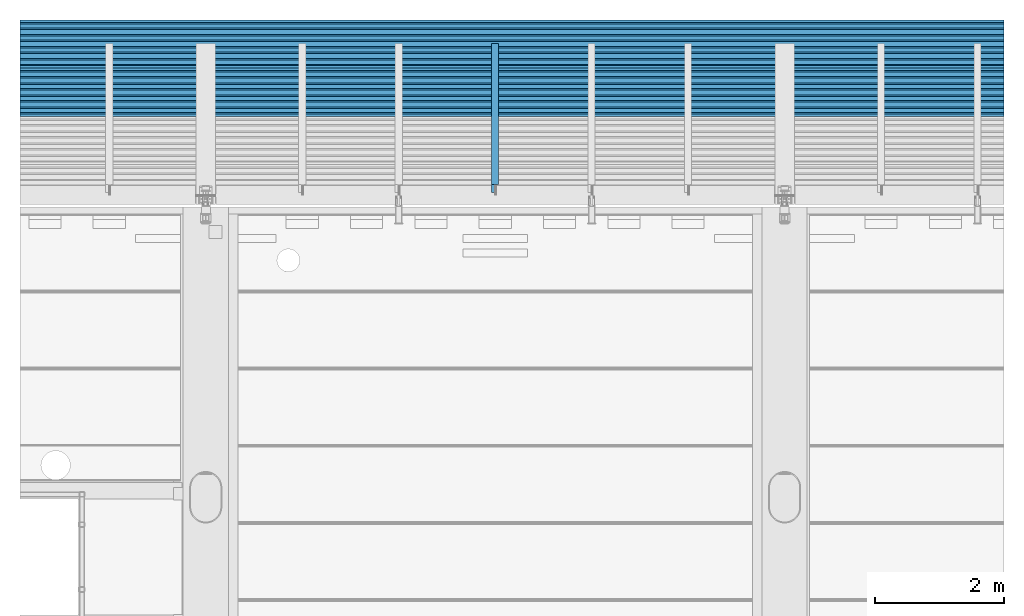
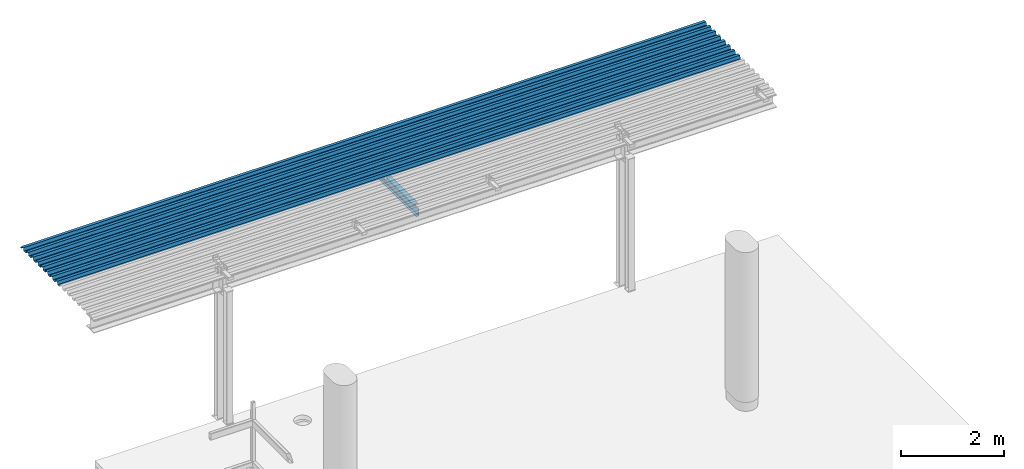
# One storey, part 26 of 34: 3 beams.
"""IFC2X3 building model written with IfcOpenShell, lengths in millimetres."""

import ifcopenshell
import ifcopenshell.guid

model = None  # the IFC model being written
_history = None  # IfcOwnerHistory: only IFC2X3 demands one
_inside = {}  # id of a spatial element -> (the spatial element, [elements in it])
_under = {}  # id of a project, library or spatial element -> (it, [spatial elements below it])
_declared = {}  # id of a project -> (the project, [libraries it declares])
_typed = {}  # id of a type object -> (the type object, [elements of that type])
_made_of = {}  # id of a material, layer set ... -> (it, [elements and type objects made of it])


def new_model(schema):
    """Start an empty IFC model of exactly this schema.

    Asked for "IFC4X3", IfcOpenShell would pick the latest addendum, in which some entities
    have other attributes; the version numbers below select the first issue.
    IFC2X3 requires an IfcOwnerHistory on every rooted entity: one is made here for all.
    """
    global model, _history
    if schema == "IFC4X3":
        model = ifcopenshell.file(schema_version=(4, 3, 0, 0))
    else:
        model = ifcopenshell.file(schema=schema)
    _inside.clear()
    _under.clear()
    _declared.clear()
    _typed.clear()
    _made_of.clear()
    _history = None
    if model.schema == "IFC2X3":
        org = make("IfcOrganization", Name="unknown")
        user = make(
            "IfcPersonAndOrganization",
            ThePerson=make("IfcPerson", FamilyName="unknown"),
            TheOrganization=org,
        )
        app = make(
            "IfcApplication",
            ApplicationDeveloper=org,
            Version="unknown",
            ApplicationFullName="unknown",
            ApplicationIdentifier="unknown",
        )
        _history = make(
            "IfcOwnerHistory",
            OwningUser=user,
            OwningApplication=app,
            ChangeAction="ADDED",
            CreationDate=0,
        )
    return model


def make(cls, **values):
    """One entity of the class cls with the attributes given. An attribute that is None is left unset."""
    return model.create_entity(
        cls, **{name: value for name, value in values.items() if value is not None}
    )


def entity(cls, *values):
    """Any entity or typed value of the class cls, its attributes in the order of the schema. None: left unset."""
    e = model.create_entity(cls)
    for i, value in enumerate(values):
        if value is not None:
            e[i] = value
    return e


def rooted(cls, **values):
    """An entity with a GlobalId (a new one), such as an element, a storey or a relation."""
    return make(cls, GlobalId=ifcopenshell.guid.new(), OwnerHistory=_history, **values)


def si_unit(unit_type, name, prefix=None):
    """IfcSIUnit, for example si_unit("LENGTHUNIT", "METRE", prefix="MILLI")."""
    return make("IfcSIUnit", UnitType=unit_type, Prefix=prefix, Name=name)


def converted_unit(unit_type, name, factor, base, dimensions=None, offset=None):
    """IfcConversionBasedUnit, such as the inch: factor (a typed value) times the base unit."""
    return make(
        "IfcConversionBasedUnit"
        if offset is None
        else "IfcConversionBasedUnitWithOffset",
        ConversionOffset=offset,
        Dimensions=None
        if dimensions is None
        else entity("IfcDimensionalExponents", *dimensions),
        UnitType=unit_type,
        Name=name,
        ConversionFactor=make(
            "IfcMeasureWithUnit", ValueComponent=factor, UnitComponent=base
        ),
    )


def derived_unit(unit_type, elements):
    """IfcDerivedUnit: a product of units, each with its exponent."""
    return make(
        "IfcDerivedUnit",
        Elements=[
            make("IfcDerivedUnitElement", Unit=unit, Exponent=power)
            for unit, power in elements
        ],
        UnitType=unit_type,
    )


def assignment(units):
    """IfcUnitAssignment: the units of a project."""
    return None if units is None else make("IfcUnitAssignment", Units=units)


def point(xyz):
    """IfcCartesianPoint."""
    return None if xyz is None else make("IfcCartesianPoint", Coordinates=xyz)


def direction(xyz):
    """IfcDirection."""
    return None if xyz is None else make("IfcDirection", DirectionRatios=xyz)


def frame(location, z_axis=None, x_axis=None):
    """IfcAxis2Placement3D, a coordinate frame: its origin and axes. An axis left out is left unset."""
    return make(
        "IfcAxis2Placement3D",
        Location=point(location),
        Axis=direction(z_axis),
        RefDirection=direction(x_axis),
    )


def origin_with_axes():
    """The frame at (0, 0, 0) with the z axis (0, 0, 1) and the x axis (1, 0, 0) written out."""
    return frame((0.0, 0.0, 0.0), z_axis=(0.0, 0.0, 1.0), x_axis=(1.0, 0.0, 0.0))


def place(relative_to, where):
    """IfcLocalPlacement: puts the frame where relative to a parent placement (None: the world)."""
    return make(
        "IfcLocalPlacement", PlacementRelTo=relative_to, RelativePlacement=where
    )


def context(
    kind, dimensions, precision=None, world=None, true_north=None, identifier=None
):
    """IfcGeometricRepresentationContext, for example the 3D "Model" context."""
    return make(
        "IfcGeometricRepresentationContext",
        ContextIdentifier=identifier,
        ContextType=kind,
        CoordinateSpaceDimension=dimensions,
        Precision=precision,
        WorldCoordinateSystem=world,
        TrueNorth=true_north,
    )


def subcontext(parent, identifier, kind, view, scale=None):
    """IfcGeometricRepresentationSubContext, for example "Body" below "Model"."""
    return make(
        "IfcGeometricRepresentationSubContext",
        ContextIdentifier=identifier,
        ContextType=kind,
        ParentContext=parent,
        TargetScale=scale,
        TargetView=view,
    )


def project(units=None, contexts=None):
    """IfcProject with its units and contexts."""
    return rooted(
        "IfcProject",
        Name="project",
        RepresentationContexts=contexts,
        UnitsInContext=assignment(units),
    )


def spatial(cls, under=None, at=None, **own):
    """A site, building, storey or space (cls), placed at a placement, below another one or the project."""
    s = rooted(cls, ObjectPlacement=at, **own)
    if under is not None:
        _under.setdefault(under.id(), (under, []))[1].append(s)
    return s


def faces_of(points, faces, orient=None, outer=None):
    """IfcFace entities. A face is a list of loops; a loop is a list of indices into points, from 0.

    orient and outer hold one flag for each loop. By default every Orientation is true, the
    first loop of a face is its IfcFaceOuterBound and the others are IfcFaceBound.
    """
    made = []
    for i, loops in enumerate(faces):
        bounds = []
        for j, loop in enumerate(loops):
            is_outer = j == 0 if outer is None else outer[i][j]
            bounds.append(
                make(
                    "IfcFaceOuterBound" if is_outer else "IfcFaceBound",
                    Bound=make("IfcPolyLoop", Polygon=[points[k] for k in loop]),
                    Orientation=True if orient is None else orient[i][j],
                )
            )
        made.append(make("IfcFace", Bounds=bounds))
    return made


def faceted_brep(points, faces, orient=None, outer=None, voids=None):
    """IfcFacetedBrep: a solid bounded by flat faces; with voids (closed shells), ...WithVoids."""
    shared = [point(p) for p in points]
    hull = make("IfcClosedShell", CfsFaces=faces_of(shared, faces, orient, outer))
    if voids is None:
        return make("IfcFacetedBrep", Outer=hull)
    return make(
        "IfcFacetedBrepWithVoids",
        Outer=hull,
        Voids=[
            make(cls, CfsFaces=faces_of(shared, fs, o, b)) for cls, fs, o, b in voids
        ],
    )


def shape(context_of_items, identifier, shape_type, items):
    """IfcShapeRepresentation: the items that make up one representation, for example the "Body"."""
    return make(
        "IfcShapeRepresentation",
        ContextOfItems=context_of_items,
        RepresentationIdentifier=identifier,
        RepresentationType=shape_type,
        Items=items,
    )


def made_of(thing, what):
    """Note that an element or type object is made of a material, layer set ...; save() writes the relation."""
    if what is not None:
        _made_of.setdefault(what.id(), (what, []))[1].append(thing)
    return thing


def type_object(cls, material=None, **own):
    """A type object (cls), such as IfcWallType, which elements share."""
    return made_of(rooted(cls, **own), material)


def element(
    cls,
    number,
    at=None,
    inside=None,
    cuts=None,
    type_object=None,
    material=None,
    context=None,
    identifier="Body",
    shape_type=None,
    held_by="IfcProductDefinitionShape",
    body=None,
    shapes=None,
    **own,
):
    """One element of the class cls, such as IfcWall. Its Tag is "e" and its number.

    at: its placement. inside: the storey or other place that contains it. cuts: it is an
    opening in that element (IfcRelVoidsElement). A single representation is given by context,
    identifier, shape_type and body (its items); several are given by shapes. held_by: the class
    of the entity that holds the representations. save() writes the other relations.
    """
    e = rooted(cls, Tag="e%d" % number, ObjectPlacement=at, **own)
    if body is not None:
        shapes = [shape(context, identifier, shape_type, body)]
    if shapes is not None:
        e.Representation = make(held_by, Representations=shapes)
    if inside is not None:
        _inside.setdefault(inside.id(), (inside, []))[1].append(e)
    if cuts is not None:
        rooted(
            "IfcRelVoidsElement", RelatingBuildingElement=cuts, RelatedOpeningElement=e
        )
    if type_object is not None:
        _typed.setdefault(type_object.id(), (type_object, []))[1].append(e)
    return made_of(e, material)


def aggregate(whole, parts):
    """IfcRelAggregates: a whole, such as a stair, and the parts it consists of."""
    return rooted("IfcRelAggregates", RelatingObject=whole, RelatedObjects=parts)


def save(model, path):
    """Write the relations noted so far, then the file.

    IfcRelAggregates (storeys below a building ...), IfcRelContainedInSpatialStructure (elements
    in a storey), IfcRelDefinesByType, IfcRelAssociatesMaterial and IfcRelDeclares: one each for
    every whole, place, type object, material and project.
    """
    for whole, parts in _under.values():
        aggregate(whole, parts)
    for where, things in _inside.values():
        rooted(
            "IfcRelContainedInSpatialStructure",
            RelatedElements=things,
            RelatingStructure=where,
        )
    for kind, things in _typed.values():
        rooted("IfcRelDefinesByType", RelatedObjects=things, RelatingType=kind)
    for what, things in _made_of.values():
        rooted("IfcRelAssociatesMaterial", RelatedObjects=things, RelatingMaterial=what)
    for by, libraries in _declared.values():
        rooted("IfcRelDeclares", RelatingContext=by, RelatedDefinitions=libraries)
    model.write(path)


model = new_model("IFC2X3")

# Units and contexts
model_context = context("Model", 3, precision=0.01, world=frame((0.0, 4.29681676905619e-09, 0.0)), true_north=direction((4.01073788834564e-13, 1.0)))
plan_context = context("Plan", 3, precision=0.01, world=frame((0.0, 4.29681676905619e-09, 0.0)), true_north=direction((4.01073788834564e-13, 1.0)))
body_context = subcontext(model_context, "Body", "Model", "MODEL_VIEW")
ifc_project = project(units=[converted_unit("PLANEANGLEUNIT", "DEGREE", entity("IfcPositiveLengthMeasure", 0.0174532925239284), si_unit("PLANEANGLEUNIT", "RADIAN"), dimensions=[0, 0, 0, 0, 0, 0, 0]), si_unit("AREAUNIT", "SQUARE_METRE"), si_unit("LENGTHUNIT", "METRE", prefix="MILLI"), si_unit("MASSUNIT", "GRAM", prefix="KILO"), si_unit("POWERUNIT", "WATT"), si_unit("PRESSUREUNIT", "PASCAL"), si_unit("FORCEUNIT", "NEWTON", prefix="KILO"), si_unit("ELECTRICVOLTAGEUNIT", "VOLT"), si_unit("ELECTRICCURRENTUNIT", "AMPERE"), si_unit("THERMODYNAMICTEMPERATUREUNIT", "DEGREE_CELSIUS"), si_unit("TIMEUNIT", "SECOND"), si_unit("VOLUMEUNIT", "CUBIC_METRE"), derived_unit("LINEARVELOCITYUNIT", [(si_unit("LENGTHUNIT", "METRE"), 1), (si_unit("TIMEUNIT", "SECOND"), -1)]), derived_unit("VOLUMETRICFLOWRATEUNIT", [(si_unit("VOLUMEUNIT", "CUBIC_METRE"), 1), (si_unit("TIMEUNIT", "SECOND"), -1)]), derived_unit("THERMALTRANSMITTANCEUNIT", [(si_unit("POWERUNIT", "WATT"), 1), (si_unit("THERMODYNAMICTEMPERATUREUNIT", "KELVIN"), -1), (si_unit("AREAUNIT", "SQUARE_METRE"), -1)]), derived_unit("SOUNDPRESSUREUNIT", [(si_unit("PRESSUREUNIT", "PASCAL"), 1)])], contexts=[model_context, plan_context])

# Site, building, storey
site_placement = place(None, frame((0.0, -4.29681676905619e-09, 0.0), z_axis=(0.0, 0.0, 1.0), x_axis=(1.0, 0.0, 0.0)))
site = spatial("IfcSite", under=ifc_project, at=site_placement, Name="Gardermoen", CompositionType="ELEMENT")
building_placement = place(site_placement, frame((0.0, 4.29681676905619e-09, 0.0), z_axis=(0.0, 0.0, 1.0), x_axis=(1.0, 0.0, 0.0)))
building = spatial("IfcBuilding", under=site, at=building_placement, Name="TH", CompositionType="ELEMENT")
storey_placement = place(building_placement, origin_with_axes())
storey = spatial("IfcBuildingStorey", under=building, at=storey_placement, Name="F", CompositionType="ELEMENT", Elevation=0.0)

# Beams
beam_type_1 = type_object("IfcBeamType", Name="PLANJA70", PredefinedType="NOTDEFINED")
beam_1_placement = place(storey_placement, frame((935995.000000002, 487344.995625, 213454.15), z_axis=(-6.61744490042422e-24, 0.0, -1.0), x_axis=(-1.0, 0.0, 6.61744490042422e-24)))
element("IfcBeam", 1, at=beam_1_placement, inside=storey, type_object=beam_type_1, Name="STÅLTAK", ObjectType="PLANJA70", context=body_context, shape_type="Brep", body=[
    faceted_brep([(25584.4149880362, -335.07049561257, 33.1500015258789), (25584.4149880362, -312.781188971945, -33.1500015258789), (40883.0936612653, -312.781188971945, -33.1500015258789), (40883.0936612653, -335.07049561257, 33.1500015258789), (25584.4149880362, -249.719879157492, -33.1500015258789), (40883.0936612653, -249.719879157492, -33.1500015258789), (25584.4149880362, -227.199996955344, 34.1500015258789), (40883.0936612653, -227.199996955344, 34.1500015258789), (25584.4149880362, -147.800003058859, 34.1500015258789), (40883.0936612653, -147.800003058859, 34.1500015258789), (25584.4149880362, -125.280120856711, -33.1500015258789), (40883.0936612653, -125.280120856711, -33.1500015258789), (25584.4149880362, -62.219879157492, -33.1500015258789), (40883.0936612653, -62.219879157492, -33.1500015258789), (25584.4149880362, -39.7000007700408, 34.1500015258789), (40883.0936612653, -39.7000007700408, 34.1500015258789), (25584.4149880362, 39.7000007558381, 34.1500015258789), (40883.0936612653, 39.7000007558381, 34.1500015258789), (25584.4149880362, 62.2198791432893, -33.1500015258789), (40883.0936612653, 62.2198791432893, -33.1500015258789), (25584.4149880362, 125.280120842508, -33.1500015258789), (40883.0936612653, 125.280120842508, -33.1500015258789), (25584.4149880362, 147.800003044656, 34.1500015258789), (40883.0936612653, 147.800003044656, 34.1500015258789), (25584.4149880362, 227.199996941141, 34.1500015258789), (40883.0936612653, 227.199996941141, 34.1500015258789), (25584.4149880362, 249.489303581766, -32.1500015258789), (40883.0936612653, 249.489303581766, -32.1500015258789), (25584.4149880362, 313.010681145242, -32.1500015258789), (40883.0936612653, 313.010681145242, -32.1500015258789), (25584.4149880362, 335.299987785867, 34.1500015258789), (40883.0936612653, 335.299987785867, 34.1500015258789), (25584.4149880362, 374.999999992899, 34.1500015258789), (40883.0936612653, 374.999999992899, 34.1500015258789), (25584.4149880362, 374.999999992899, 33.1500015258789), (40883.0936612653, 374.999999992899, 33.1500015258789), (25584.4149880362, 336.018798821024, 33.1500015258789), (40883.0936612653, 336.018798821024, 33.1500015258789), (25584.4149880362, 313.729492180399, -33.1500015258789), (40883.0936612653, 313.729492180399, -33.1500015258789), (25584.4149880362, 248.77049254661, -33.1500015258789), (40883.0936612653, 248.77049254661, -33.1500015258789), (25584.4149880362, 226.481185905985, 33.1500015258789), (40883.0936612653, 226.481185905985, 33.1500015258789), (25584.4149880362, 148.519882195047, 33.1500015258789), (40883.0936612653, 148.519882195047, 33.1500015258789), (25584.4149880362, 125.999999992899, -34.1500015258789), (40883.0936612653, 125.999999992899, -34.1500015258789), (25584.4149880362, 61.4999999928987, -34.1500015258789), (40883.0936612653, 61.4999999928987, -34.1500015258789), (25584.4149880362, 38.9801177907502, 33.1500015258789), (40883.0936612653, 38.9801177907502, 33.1500015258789), (25584.4149880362, -38.9801178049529, 33.1500015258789), (40883.0936612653, -38.9801178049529, 33.1500015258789), (25584.4149880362, -61.5000000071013, -34.1500015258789), (40883.0936612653, -61.5000000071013, -34.1500015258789), (25584.4149880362, -126.000000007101, -34.1500015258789), (40883.0936612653, -126.000000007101, -34.1500015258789), (25584.4149880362, -148.51988220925, 33.1500015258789), (40883.0936612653, -148.51988220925, 33.1500015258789), (25584.4149880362, -226.480117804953, 33.1500015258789), (40883.0936612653, -226.480117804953, 33.1500015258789), (25584.4149880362, -249.000000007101, -34.1500015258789), (40883.0936612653, -249.000000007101, -34.1500015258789), (25584.4149880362, -313.500000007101, -34.1500015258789), (40883.0936612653, -313.500000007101, -34.1500015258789), (25584.4149880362, -335.789306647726, 32.1500015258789), (40883.0936612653, -335.789306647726, 32.1500015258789), (25584.4149880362, -375.000000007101, 32.1500015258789), (40883.0936612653, -375.000000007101, 32.1500015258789), (25584.4149880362, -375.000000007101, 33.1500015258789), (40883.0936612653, -375.000000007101, 33.1500015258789)], [[[0, 1, 2, 3]], [[1, 4, 5, 2]], [[4, 6, 7, 5]], [[6, 8, 9, 7]], [[8, 10, 11, 9]], [[10, 12, 13, 11]], [[12, 14, 15, 13]], [[14, 16, 17, 15]], [[16, 18, 19, 17]], [[18, 20, 21, 19]], [[20, 22, 23, 21]], [[22, 24, 25, 23]], [[24, 26, 27, 25]], [[26, 28, 29, 27]], [[28, 30, 31, 29]], [[30, 32, 33, 31]], [[32, 34, 35, 33]], [[34, 36, 37, 35]], [[36, 38, 39, 37]], [[38, 40, 41, 39]], [[40, 42, 43, 41]], [[42, 44, 45, 43]], [[44, 46, 47, 45]], [[46, 48, 49, 47]], [[48, 50, 51, 49]], [[50, 52, 53, 51]], [[52, 54, 55, 53]], [[54, 56, 57, 55]], [[56, 58, 59, 57]], [[58, 60, 61, 59]], [[60, 62, 63, 61]], [[62, 64, 65, 63]], [[64, 66, 67, 65]], [[66, 68, 69, 67]], [[68, 70, 71, 69]], [[70, 0, 3, 71]], [[70, 68, 66, 64, 62, 60, 58, 56, 54, 52, 50, 48, 46, 44, 42, 40, 38, 36, 34, 32, 30, 28, 26, 24, 22, 20, 18, 16, 14, 12, 10, 8, 6, 4, 1, 0]], [[5, 7, 9, 11, 13, 15, 17, 19, 21, 23, 25, 27, 29, 31, 33, 35, 37, 39, 41, 43, 45, 47, 49, 51, 53, 55, 57, 59, 61, 63, 65, 67, 69, 71, 3, 2]]], orient=[[False], [False], [False], [False], [False], [False], [False], [False], [False], [False], [False], [False], [False], [False], [False], [False], [False], [False], [False], [False], [False], [False], [False], [False], [False], [False], [False], [False], [False], [False], [False], [False], [False], [False], [False], [False], [False], [False]]),
])
beam_2_placement = place(storey_placement, frame((935995.000000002, 486594.995625, 213454.15), z_axis=(-6.61744490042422e-24, 0.0, -1.0), x_axis=(-1.0, 0.0, 6.61744490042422e-24)))
element("IfcBeam", 2, at=beam_2_placement, inside=storey, type_object=beam_type_1, Name="STÅLTAK", ObjectType="PLANJA70", context=body_context, shape_type="Brep", body=[
    faceted_brep([(25584.4149880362, -335.07049561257, 33.1500015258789), (25584.4149880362, -312.781188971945, -33.1500015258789), (40883.0936612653, -312.781188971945, -33.1500015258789), (40883.0936612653, -335.07049561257, 33.1500015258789), (25584.4149880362, -249.719879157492, -33.1500015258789), (40883.0936612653, -249.719879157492, -33.1500015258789), (25584.4149880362, -227.199996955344, 34.1500015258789), (40883.0936612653, -227.199996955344, 34.1500015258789), (25584.4149880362, -147.800003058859, 34.1500015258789), (40883.0936612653, -147.800003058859, 34.1500015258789), (25584.4149880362, -125.280120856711, -33.1500015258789), (40883.0936612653, -125.280120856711, -33.1500015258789), (25584.4149880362, -62.219879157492, -33.1500015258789), (40883.0936612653, -62.219879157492, -33.1500015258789), (25584.4149880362, -39.7000007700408, 34.1500015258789), (40883.0936612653, -39.7000007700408, 34.1500015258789), (25584.4149880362, 39.7000007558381, 34.1500015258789), (40883.0936612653, 39.7000007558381, 34.1500015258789), (25584.4149880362, 62.2198791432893, -33.1500015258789), (40883.0936612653, 62.2198791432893, -33.1500015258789), (25584.4149880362, 125.280120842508, -33.1500015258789), (40883.0936612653, 125.280120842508, -33.1500015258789), (25584.4149880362, 147.800003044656, 34.1500015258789), (40883.0936612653, 147.800003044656, 34.1500015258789), (25584.4149880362, 227.199996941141, 34.1500015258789), (40883.0936612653, 227.199996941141, 34.1500015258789), (25584.4149880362, 249.489303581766, -32.1500015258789), (40883.0936612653, 249.489303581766, -32.1500015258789), (25584.4149880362, 313.010681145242, -32.1500015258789), (40883.0936612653, 313.010681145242, -32.1500015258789), (25584.4149880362, 335.299987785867, 34.1500015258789), (40883.0936612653, 335.299987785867, 34.1500015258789), (25584.4149880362, 374.999999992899, 34.1500015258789), (40883.0936612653, 374.999999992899, 34.1500015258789), (25584.4149880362, 374.999999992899, 33.1500015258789), (40883.0936612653, 374.999999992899, 33.1500015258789), (25584.4149880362, 336.018798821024, 33.1500015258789), (40883.0936612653, 336.018798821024, 33.1500015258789), (25584.4149880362, 313.729492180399, -33.1500015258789), (40883.0936612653, 313.729492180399, -33.1500015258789), (25584.4149880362, 248.77049254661, -33.1500015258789), (40883.0936612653, 248.77049254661, -33.1500015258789), (25584.4149880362, 226.481185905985, 33.1500015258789), (40883.0936612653, 226.481185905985, 33.1500015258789), (25584.4149880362, 148.519882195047, 33.1500015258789), (40883.0936612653, 148.519882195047, 33.1500015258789), (25584.4149880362, 125.999999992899, -34.1500015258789), (40883.0936612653, 125.999999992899, -34.1500015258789), (25584.4149880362, 61.4999999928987, -34.1500015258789), (40883.0936612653, 61.4999999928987, -34.1500015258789), (25584.4149880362, 38.9801177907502, 33.1500015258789), (40883.0936612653, 38.9801177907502, 33.1500015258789), (25584.4149880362, -38.9801178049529, 33.1500015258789), (40883.0936612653, -38.9801178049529, 33.1500015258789), (25584.4149880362, -61.5000000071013, -34.1500015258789), (40883.0936612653, -61.5000000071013, -34.1500015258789), (25584.4149880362, -126.000000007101, -34.1500015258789), (40883.0936612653, -126.000000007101, -34.1500015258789), (25584.4149880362, -148.51988220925, 33.1500015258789), (40883.0936612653, -148.51988220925, 33.1500015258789), (25584.4149880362, -226.480117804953, 33.1500015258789), (40883.0936612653, -226.480117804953, 33.1500015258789), (25584.4149880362, -249.000000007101, -34.1500015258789), (40883.0936612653, -249.000000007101, -34.1500015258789), (25584.4149880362, -313.500000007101, -34.1500015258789), (40883.0936612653, -313.500000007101, -34.1500015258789), (25584.4149880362, -335.789306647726, 32.1500015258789), (40883.0936612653, -335.789306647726, 32.1500015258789), (25584.4149880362, -375.000000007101, 32.1500015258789), (40883.0936612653, -375.000000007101, 32.1500015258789), (25584.4149880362, -375.000000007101, 33.1500015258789), (40883.0936612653, -375.000000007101, 33.1500015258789)], [[[0, 1, 2, 3]], [[1, 4, 5, 2]], [[4, 6, 7, 5]], [[6, 8, 9, 7]], [[8, 10, 11, 9]], [[10, 12, 13, 11]], [[12, 14, 15, 13]], [[14, 16, 17, 15]], [[16, 18, 19, 17]], [[18, 20, 21, 19]], [[20, 22, 23, 21]], [[22, 24, 25, 23]], [[24, 26, 27, 25]], [[26, 28, 29, 27]], [[28, 30, 31, 29]], [[30, 32, 33, 31]], [[32, 34, 35, 33]], [[34, 36, 37, 35]], [[36, 38, 39, 37]], [[38, 40, 41, 39]], [[40, 42, 43, 41]], [[42, 44, 45, 43]], [[44, 46, 47, 45]], [[46, 48, 49, 47]], [[48, 50, 51, 49]], [[50, 52, 53, 51]], [[52, 54, 55, 53]], [[54, 56, 57, 55]], [[56, 58, 59, 57]], [[58, 60, 61, 59]], [[60, 62, 63, 61]], [[62, 64, 65, 63]], [[64, 66, 67, 65]], [[66, 68, 69, 67]], [[68, 70, 71, 69]], [[70, 0, 3, 71]], [[70, 68, 66, 64, 62, 60, 58, 56, 54, 52, 50, 48, 46, 44, 42, 40, 38, 36, 34, 32, 30, 28, 26, 24, 22, 20, 18, 16, 14, 12, 10, 8, 6, 4, 1, 0]], [[5, 7, 9, 11, 13, 15, 17, 19, 21, 23, 25, 27, 29, 31, 33, 35, 37, 39, 41, 43, 45, 47, 49, 51, 53, 55, 57, 59, 61, 63, 65, 67, 69, 71, 3, 2]]], orient=[[False], [False], [False], [False], [False], [False], [False], [False], [False], [False], [False], [False], [False], [False], [False], [False], [False], [False], [False], [False], [False], [False], [False], [False], [False], [False], [False], [False], [False], [False], [False], [False], [False], [False], [False], [False], [False], [False]]),
])
beam_type_2 = type_object("IfcBeamType", Name="IPE220", PredefinedType="NOTDEFINED")
beam_3_placement = place(storey_placement, frame((902499.999781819, 485029.995624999, 213310.0), z_axis=(0.0, 0.0, 1.0), x_axis=(0.0, 1.0, 0.0)))
element("IfcBeam", 3, at=beam_3_placement, inside=storey, type_object=beam_type_2, Name="STÅLBJELKE", ObjectType="IPE220", context=body_context, shape_type="Brep", body=[
    faceted_brep([(2327.65437500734, -55.0, -110.0), (2327.65437500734, 55.0, -110.0), (9.99999999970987, 55.0, -110.0), (9.99999999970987, -2.9500000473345, -110.0), (129.999999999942, -2.95000004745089, -110.0), (129.999999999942, -55.0, -110.0), (2327.65437500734, -55.0, -100.800000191), (129.999999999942, -55.0, -100.800000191), (2327.65437500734, -14.9500000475, -100.800000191), (129.999999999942, -14.9500000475, -100.800000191), (2327.65437500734, -12.6089161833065, -100.569423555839), (129.999999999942, -12.6089161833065, -100.569423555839), (2327.65437500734, -10.3577988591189, -99.8865545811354), (129.999999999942, -10.3577988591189, -99.8865545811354), (2327.65437500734, -8.28315725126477, -98.7776355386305), (129.999999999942, -8.28315725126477, -98.7776355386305), (2327.65437500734, -6.46471867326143, -97.2852815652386), (129.999999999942, -6.46471867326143, -97.2852815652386), (2327.65437500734, -4.97236469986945, -95.4668429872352), (129.999999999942, -4.97236469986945, -95.4668429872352), (2327.65437500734, -3.86344565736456, -93.3922013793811), (129.999999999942, -3.86344565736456, -93.3922013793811), (2327.65437500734, -3.18057668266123, -91.1410840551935), (129.999999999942, -3.18057668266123, -91.1410840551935), (2327.65437500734, -2.9500000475, -88.800000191), (129.999999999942, -2.96969830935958, -89.0), (9.99999999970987, -2.96969830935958, -89.0), (9.99999999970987, -2.9500000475, -88.800000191), (2327.65437500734, -2.9500000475, 88.800000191), (9.99999999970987, -2.9500000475, 70.0), (120.000000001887, -2.9500000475, 69.9999999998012), (121.564344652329, -2.9500000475, 70.1231165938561), (123.090169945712, -2.9500000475, 70.4894348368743), (124.539904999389, -2.9500000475, 71.0899347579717), (125.87785252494, -2.9500000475, 71.9098300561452), (127.071067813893, -2.9500000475, 72.9289321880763), (128.090169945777, -2.9500000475, 74.1221474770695), (128.910065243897, -2.9500000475, 75.4600950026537), (129.510565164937, -2.9500000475, 76.9098300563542), (129.876883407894, -2.9500000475, 78.4356553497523), (130.000000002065, -2.9500000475, 79.999999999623), (130.000000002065, -2.9500000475, 88.800000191), (1319.99999644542, -2.95000004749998, -62.4999973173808), (1330.28716071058, -2.95000004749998, -61.6475789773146), (1340.29371582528, -2.95000004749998, -59.113575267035), (1349.74671125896, -2.95000004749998, -54.9671072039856), (1358.38829393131, -2.95000004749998, -49.3212796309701), (1365.98274398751, -2.95000004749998, -42.3300960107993), (1372.32290462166, -2.95000004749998, -34.1842576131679), (1377.23583277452, -2.95000004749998, -25.1059616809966), (1380.58751656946, -2.95000004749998, -15.3428404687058), (1382.28653080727, -2.95000004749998, -5.16120647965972), (1382.28653080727, -2.95000004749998, 5.16121184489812), (1380.58751656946, -2.95000004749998, 15.3428458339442), (1377.23583277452, -2.95000004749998, 25.105967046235), (1372.32290462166, -2.95000004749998, 34.1842629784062), (1365.98274398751, -2.95000004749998, 42.3301013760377), (1358.38829393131, -2.95000004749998, 49.3212849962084), (1349.74671125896, -2.95000004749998, 54.9671125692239), (1340.29371582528, -2.95000004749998, 59.1135806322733), (1330.28716071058, -2.95000004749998, 61.6475843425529), (1319.99999866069, -2.95000004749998, 62.5000026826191), (1309.14699239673, -2.95000004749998, 61.5504878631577), (1298.62374438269, -2.95000004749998, 58.7307926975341), (1288.75000307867, -2.95000004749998, 54.1265921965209), (1279.82577711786, -2.95000004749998, 47.8777826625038), (1272.12222459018, -2.95000004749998, 40.1742310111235), (1265.87341404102, -2.95000004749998, 31.250005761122), (1261.26921241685, -2.95000004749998, 21.3762649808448), (1258.44951605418, -2.95000004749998, 10.8530172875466), (1257.50000000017, -2.95000004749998, 6.23736814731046e-06), (1258.44951481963, -2.95000004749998, -10.8530049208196), (1261.26920998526, -2.95000004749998, -21.3762529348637), (1265.87341048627, -2.95000004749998, -31.2499942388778), (1272.12222002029, -2.95000004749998, -40.1742201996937), (1279.82577167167, -2.95000004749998, -47.8777727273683), (1288.74999692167, -2.95000004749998, -54.1265832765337), (1298.62373770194, -2.95000004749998, -58.7307849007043), (1309.14698539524, -2.95000004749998, -61.5504812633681), (2327.65437500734, -3.18057668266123, 91.1410840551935), (130.000000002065, -3.18057668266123, 91.1410840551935), (2327.65437500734, -3.86344565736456, 93.3922013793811), (130.000000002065, -3.86344565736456, 93.3922013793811), (2327.65437500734, -4.97236469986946, 95.4668429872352), (130.000000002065, -4.97236469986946, 95.4668429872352), (2327.65437500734, -6.46471867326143, 97.2852815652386), (130.000000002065, -6.46471867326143, 97.2852815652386), (2327.65437500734, -8.28315725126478, 98.7776355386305), (130.000000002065, -8.28315725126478, 98.7776355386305), (2327.65437500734, -10.3577988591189, 99.8865545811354), (130.000000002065, -10.3577988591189, 99.8865545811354), (2327.65437500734, -12.6089161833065, 100.569423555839), (130.000000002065, -12.6089161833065, 100.569423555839), (2327.65437500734, -14.9500000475, 100.800000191), (130.000000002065, -14.9500000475, 100.800000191), (2327.65437500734, -55.0, 100.800000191), (130.000000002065, -55.0, 100.800000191), (2327.65437500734, -55.0, 110.0), (130.000000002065, -55.0, 110.0), (2327.65437500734, 55.0, 110.0), (130.000000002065, 55.0, 110.0), (2327.65437500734, 55.0, 100.800000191), (130.000000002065, 55.0, 100.800000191), (2327.65437500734, 14.9500000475, 100.800000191), (130.000000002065, 14.9500000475, 100.800000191), (2327.65437500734, 12.6089161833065, 100.569423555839), (130.000000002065, 12.6089161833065, 100.569423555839), (2327.65437500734, 10.3577988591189, 99.8865545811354), (130.000000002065, 10.3577988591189, 99.8865545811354), (2327.65437500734, 8.28315725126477, 98.7776355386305), (130.000000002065, 8.28315725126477, 98.7776355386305), (2327.65437500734, 6.46471867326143, 97.2852815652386), (130.000000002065, 6.46471867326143, 97.2852815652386), (2327.65437500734, 4.97236469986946, 95.4668429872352), (130.000000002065, 4.97236469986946, 95.4668429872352), (2327.65437500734, 3.86344565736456, 93.3922013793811), (130.000000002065, 3.86344565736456, 93.3922013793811), (2327.65437500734, 3.18057668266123, 91.1410840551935), (130.000000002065, 3.18057668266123, 91.1410840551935), (2327.65437500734, 2.9500000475, 88.800000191), (130.000000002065, 2.9500000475, 88.800000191), (2327.65437500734, 2.9500000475, -88.800000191), (130.000000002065, 2.95000004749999, 79.999999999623), (129.876883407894, 2.95000004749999, 78.4356553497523), (129.510565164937, 2.95000004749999, 76.9098300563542), (128.910065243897, 2.95000004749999, 75.4600950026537), (128.090169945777, 2.95000004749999, 74.1221474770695), (127.071067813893, 2.95000004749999, 72.9289321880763), (125.87785252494, 2.95000004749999, 71.9098300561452), (124.539904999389, 2.95000004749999, 71.0899347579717), (123.090169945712, 2.95000004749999, 70.4894348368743), (121.564344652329, 2.95000004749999, 70.1231165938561), (120.000000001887, 2.95000004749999, 69.9999999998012), (9.99999999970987, 2.9500000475, 70.0), (9.99999999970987, 2.9500000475, -88.800000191), (1330.28716071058, 2.95000004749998, -61.6475789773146), (1319.99999644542, 2.95000004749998, -62.4999973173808), (1309.14698539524, 2.95000004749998, -61.5504812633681), (1298.62373770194, 2.95000004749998, -58.7307849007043), (1288.74999692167, 2.95000004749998, -54.1265832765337), (1279.82577167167, 2.95000004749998, -47.8777727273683), (1272.12222002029, 2.95000004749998, -40.1742201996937), (1265.87341048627, 2.95000004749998, -31.2499942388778), (1261.26920998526, 2.95000004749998, -21.3762529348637), (1258.44951481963, 2.95000004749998, -10.8530049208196), (1257.50000000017, 2.95000004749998, 6.23736814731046e-06), (1258.44951605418, 2.95000004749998, 10.8530172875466), (1261.26921241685, 2.95000004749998, 21.3762649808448), (1265.87341404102, 2.95000004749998, 31.250005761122), (1272.12222459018, 2.95000004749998, 40.1742310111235), (1279.82577711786, 2.95000004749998, 47.8777826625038), (1288.75000307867, 2.95000004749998, 54.1265921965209), (1298.62374438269, 2.95000004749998, 58.7307926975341), (1309.14699239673, 2.95000004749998, 61.5504878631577), (1319.99999866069, 2.95000004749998, 62.5000026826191), (1330.28716071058, 2.95000004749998, 61.6475843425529), (1340.29371582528, 2.95000004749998, 59.1135806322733), (1349.74671125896, 2.95000004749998, 54.9671125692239), (1358.38829393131, 2.95000004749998, 49.3212849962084), (1365.98274398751, 2.95000004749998, 42.3301013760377), (1372.32290462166, 2.95000004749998, 34.1842629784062), (1377.23583277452, 2.95000004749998, 25.105967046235), (1380.58751656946, 2.95000004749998, 15.3428458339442), (1382.28653080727, 2.95000004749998, 5.16121184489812), (1382.28653080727, 2.95000004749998, -5.16120647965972), (1380.58751656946, 2.95000004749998, -15.3428404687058), (1377.23583277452, 2.95000004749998, -25.1059616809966), (1372.32290462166, 2.95000004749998, -34.1842576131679), (1365.98274398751, 2.95000004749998, -42.3300960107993), (1358.38829393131, 2.95000004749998, -49.3212796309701), (1349.74671125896, 2.95000004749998, -54.9671072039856), (1340.29371582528, 2.95000004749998, -59.113575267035), (2327.65437500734, 3.18057668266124, -91.1410840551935), (9.99999999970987, 3.18057668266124, -91.1410840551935), (2327.65437500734, 3.86344565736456, -93.3922013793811), (9.99999999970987, 3.86344565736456, -93.3922013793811), (2327.65437500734, 4.97236469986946, -95.4668429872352), (9.99999999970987, 4.97236469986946, -95.4668429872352), (2327.65437500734, 6.46471867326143, -97.2852815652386), (9.99999999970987, 6.46471867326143, -97.2852815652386), (2327.65437500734, 8.28315725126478, -98.7776355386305), (9.99999999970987, 8.28315725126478, -98.7776355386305), (2327.65437500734, 10.3577988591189, -99.8865545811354), (9.99999999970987, 10.3577988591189, -99.8865545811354), (2327.65437500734, 12.6089161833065, -100.569423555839), (9.99999999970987, 12.6089161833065, -100.569423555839), (2327.65437500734, 14.9500000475, -100.800000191), (9.99999999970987, 14.9500000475, -100.800000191), (2327.65437500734, 55.0, -100.800000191), (9.99999999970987, 55.0, -100.800000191), (129.999999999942, -2.95000004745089, -89.0), (9.99999999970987, -2.95000004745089, -89.0)], [[[0, 1, 2, 3, 4, 5]], [[6, 0, 5, 7]], [[8, 6, 7, 9]], [[10, 8, 9, 11]], [[12, 10, 11, 13]], [[14, 12, 13, 15]], [[16, 14, 15, 17]], [[18, 16, 17, 19]], [[20, 18, 19, 21]], [[22, 20, 21, 23]], [[24, 22, 23, 25, 26, 27]], [[28, 24, 27, 29, 30, 31, 32, 33, 34, 35, 36, 37, 38, 39, 40, 41], [42, 43, 44, 45, 46, 47, 48, 49, 50, 51, 52, 53, 54, 55, 56, 57, 58, 59, 60, 61, 62, 63, 64, 65, 66, 67, 68, 69, 70, 71, 72, 73, 74, 75, 76, 77, 78]], [[79, 28, 41, 80]], [[81, 79, 80, 82]], [[83, 81, 82, 84]], [[85, 83, 84, 86]], [[87, 85, 86, 88]], [[89, 87, 88, 90]], [[91, 89, 90, 92]], [[93, 91, 92, 94]], [[95, 93, 94, 96]], [[97, 95, 96, 98]], [[99, 97, 98, 100]], [[101, 99, 100, 102]], [[103, 101, 102, 104]], [[105, 103, 104, 106]], [[107, 105, 106, 108]], [[109, 107, 108, 110]], [[111, 109, 110, 112]], [[113, 111, 112, 114]], [[115, 113, 114, 116]], [[117, 115, 116, 118]], [[119, 117, 118, 120]], [[121, 119, 120, 122, 123, 124, 125, 126, 127, 128, 129, 130, 131, 132, 133, 134], [135, 136, 137, 138, 139, 140, 141, 142, 143, 144, 145, 146, 147, 148, 149, 150, 151, 152, 153, 154, 155, 156, 157, 158, 159, 160, 161, 162, 163, 164, 165, 166, 167, 168, 169, 170, 171]], [[172, 121, 134, 173]], [[174, 172, 173, 175]], [[176, 174, 175, 177]], [[178, 176, 177, 179]], [[180, 178, 179, 181]], [[182, 180, 181, 183]], [[184, 182, 183, 185]], [[186, 184, 185, 187]], [[188, 186, 187, 189]], [[1, 188, 189, 2]], [[43, 42, 136, 135]], [[42, 78, 137, 136]], [[78, 77, 138, 137]], [[77, 76, 139, 138]], [[76, 75, 140, 139]], [[75, 74, 141, 140]], [[74, 73, 142, 141]], [[73, 72, 143, 142]], [[72, 71, 144, 143]], [[71, 70, 145, 144]], [[70, 69, 146, 145]], [[69, 68, 147, 146]], [[68, 67, 148, 147]], [[67, 66, 149, 148]], [[66, 65, 150, 149]], [[65, 64, 151, 150]], [[64, 63, 152, 151]], [[63, 62, 153, 152]], [[62, 61, 154, 153]], [[61, 60, 155, 154]], [[60, 59, 156, 155]], [[59, 58, 157, 156]], [[58, 57, 158, 157]], [[57, 56, 159, 158]], [[56, 55, 160, 159]], [[55, 54, 161, 160]], [[54, 53, 162, 161]], [[53, 52, 163, 162]], [[52, 51, 164, 163]], [[51, 50, 165, 164]], [[50, 49, 166, 165]], [[49, 48, 167, 166]], [[48, 47, 168, 167]], [[47, 46, 169, 168]], [[46, 45, 170, 169]], [[45, 44, 171, 170]], [[44, 43, 135, 171]], [[190, 25, 23, 21, 19, 17, 15, 13, 11, 9, 7, 5, 4]], [[190, 191, 26, 25]], [[190, 4, 3, 191]], [[30, 29, 133, 132]], [[132, 131, 31, 30]], [[131, 130, 32, 31]], [[130, 129, 33, 32]], [[129, 128, 34, 33]], [[128, 127, 35, 34]], [[127, 126, 36, 35]], [[126, 125, 37, 36]], [[125, 124, 38, 37]], [[124, 123, 39, 38]], [[123, 122, 40, 39]], [[122, 120, 118, 116, 114, 112, 110, 108, 106, 104, 102, 100, 98, 96, 94, 92, 90, 88, 86, 84, 82, 80, 41, 40]], [[26, 191, 3, 2, 189, 187, 185, 183, 181, 179, 177, 175, 173, 134, 133, 29, 27]], [[6, 8, 10, 12, 14, 16, 18, 20, 22, 24, 28, 79, 81, 83, 85, 87, 89, 91, 93, 95, 97, 99, 101, 103, 105, 107, 109, 111, 113, 115, 117, 119, 121, 172, 174, 176, 178, 180, 182, 184, 186, 188, 1, 0]]], orient=[[False], [False], [False], [False], [False], [False], [False], [False], [False], [False], [False], [False, False], [False], [False], [False], [False], [False], [False], [False], [False], [False], [False], [False], [False], [False], [False], [False], [False], [False], [False], [False], [False], [False], [False, False], [False], [False], [False], [False], [False], [False], [False], [False], [False], [False], [False], [False], [False], [False], [False], [False], [False], [False], [False], [False], [False], [False], [False], [False], [False], [False], [False], [False], [False], [False], [False], [False], [False], [False], [False], [False], [False], [False], [False], [False], [False], [False], [False], [False], [False], [False], [False], [False], [False], [False], [False], [False], [False], [False], [False], [False], [False], [False], [False], [False], [False], [False], [False], [False]]),
])

save(model, "model.ifc")
